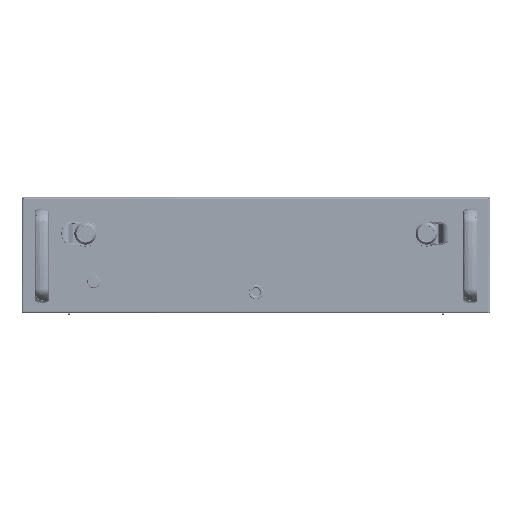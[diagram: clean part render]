
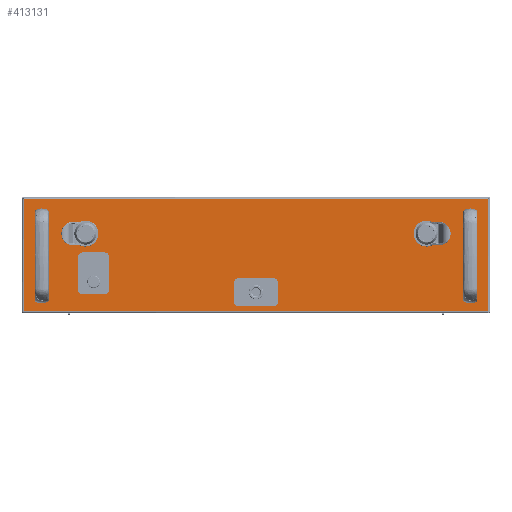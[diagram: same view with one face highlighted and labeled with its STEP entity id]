
A CAD part, front view. The second image highlights one B-rep face of the part: STEP entity #413131.
In plain terms, the highlighted planar face has unit normal (0, -1, 0) as drawn and (0, 0, 1) by its records, which use the part's own axes.
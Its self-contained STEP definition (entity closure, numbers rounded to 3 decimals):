
#410911=CARTESIAN_POINT(' ',(591.7,144.7,0.));
#410916=DIRECTION(' ',(-1.,0.,0.));
#410921=VECTOR(' ',#410916,1.);
#410926=LINE('',#410911,#410921);
#410931=CARTESIAN_POINT(' ',(591.7,144.7,0.));
#410932=VERTEX_POINT(' ',#410931);
#410936=CARTESIAN_POINT(' ',(2.3,144.7,0.));
#410937=VERTEX_POINT(' ',#410936);
#410941=EDGE_CURVE(' ',#410932,#410937,#410926,.T.);
#412411=DIRECTION(' ',(-0.,-0.,1.));
#412416=CARTESIAN_POINT(' ',(591.7,2.3,0.));
#412421=DIRECTION(' ',(0.,1.,0.));
#412426=AXIS2_PLACEMENT_3D(' ',#412416,#412411,#412421);
#412431=PLANE('NONE',#412426);
#412436=CARTESIAN_POINT(' ',(2.3,2.3,0.));
#412441=DIRECTION(' ',(1.,0.,0.));
#412446=VECTOR(' ',#412441,1.);
#412451=LINE('',#412436,#412446);
#412456=CARTESIAN_POINT(' ',(2.3,2.3,0.));
#412457=VERTEX_POINT(' ',#412456);
#412461=CARTESIAN_POINT(' ',(591.7,2.3,0.));
#412462=VERTEX_POINT(' ',#412461);
#412466=EDGE_CURVE(' ',#412457,#412462,#412451,.T.);
#412471=ORIENTED_EDGE(' ',*,*,#412466,.T.);
#412476=CARTESIAN_POINT(' ',(591.7,144.7,0.));
#412481=DIRECTION(' ',(0.,-1.,0.));
#412486=VECTOR(' ',#412481,1.);
#412491=LINE('',#412476,#412486);
#412496=EDGE_CURVE(' ',#410932,#412462,#412491,.T.);
#412501=ORIENTED_EDGE(' ',*,*,#412496,.F.);
#412506=ORIENTED_EDGE(' ',*,*,#410941,.T.);
#412511=CARTESIAN_POINT(' ',(2.3,144.7,0.));
#412516=DIRECTION(' ',(0.,-1.,0.));
#412521=VECTOR(' ',#412516,1.);
#412526=LINE('',#412511,#412521);
#412531=EDGE_CURVE(' ',#410937,#412457,#412526,.T.);
#412536=ORIENTED_EDGE(' ',*,*,#412531,.T.);
#412541=EDGE_LOOP(' ',(#412471,#412501,#412506,#412536));
#412546=FACE_OUTER_BOUND(' ',#412541,.T.);
#412551=CARTESIAN_POINT(' ',(110.85,30.,0.));
#412556=DIRECTION(' ',(0.,1.,0.));
#412561=VECTOR(' ',#412556,1.);
#412566=LINE('',#412551,#412561);
#412571=CARTESIAN_POINT(' ',(110.85,30.,0.));
#412572=VERTEX_POINT(' ',#412571);
#412576=CARTESIAN_POINT(' ',(110.85,71.,0.));
#412577=VERTEX_POINT(' ',#412576);
#412581=EDGE_CURVE(' ',#412572,#412577,#412566,.T.);
#412586=ORIENTED_EDGE(' ',*,*,#412581,.F.);
#412591=CARTESIAN_POINT(' ',(104.85,30.,0.));
#412596=DIRECTION(' ',(0.,-0.,1.));
#412601=DIRECTION(' ',(0.,-1.,0.));
#412606=AXIS2_PLACEMENT_3D(' ',#412591,#412596,#412601);
#412611=CIRCLE('',#412606,6.);
#412616=CARTESIAN_POINT(' ',(104.85,24.,0.));
#412617=VERTEX_POINT(' ',#412616);
#412621=EDGE_CURVE(' ',#412617,#412572,#412611,.T.);
#412626=ORIENTED_EDGE(' ',*,*,#412621,.F.);
#412631=CARTESIAN_POINT(' ',(76.85,24.,0.));
#412636=DIRECTION(' ',(1.,0.,0.));
#412641=VECTOR(' ',#412636,1.);
#412646=LINE('',#412631,#412641);
#412651=CARTESIAN_POINT(' ',(76.85,24.,0.));
#412652=VERTEX_POINT(' ',#412651);
#412656=EDGE_CURVE(' ',#412652,#412617,#412646,.T.);
#412661=ORIENTED_EDGE(' ',*,*,#412656,.F.);
#412666=CARTESIAN_POINT(' ',(76.85,30.,0.));
#412671=DIRECTION(' ',(0.,0.,1.));
#412676=DIRECTION(' ',(-1.,0.,0.));
#412681=AXIS2_PLACEMENT_3D(' ',#412666,#412671,#412676);
#412686=CIRCLE('',#412681,6.);
#412691=CARTESIAN_POINT(' ',(70.85,30.,0.));
#412692=VERTEX_POINT(' ',#412691);
#412696=EDGE_CURVE(' ',#412692,#412652,#412686,.T.);
#412701=ORIENTED_EDGE(' ',*,*,#412696,.F.);
#412706=CARTESIAN_POINT(' ',(70.85,71.,0.));
#412711=DIRECTION(' ',(0.,-1.,0.));
#412716=VECTOR(' ',#412711,1.);
#412721=LINE('',#412706,#412716);
#412726=CARTESIAN_POINT(' ',(70.85,71.,0.));
#412727=VERTEX_POINT(' ',#412726);
#412731=EDGE_CURVE(' ',#412727,#412692,#412721,.T.);
#412736=ORIENTED_EDGE(' ',*,*,#412731,.F.);
#412741=CARTESIAN_POINT(' ',(76.85,71.,0.));
#412746=DIRECTION(' ',(0.,0.,1.));
#412751=DIRECTION(' ',(0.,1.,0.));
#412756=AXIS2_PLACEMENT_3D(' ',#412741,#412746,#412751);
#412761=CIRCLE('',#412756,6.);
#412766=CARTESIAN_POINT(' ',(76.85,77.,0.));
#412767=VERTEX_POINT(' ',#412766);
#412771=EDGE_CURVE(' ',#412767,#412727,#412761,.T.);
#412776=ORIENTED_EDGE(' ',*,*,#412771,.F.);
#412781=CARTESIAN_POINT(' ',(104.85,77.,0.));
#412786=DIRECTION(' ',(-1.,0.,0.));
#412791=VECTOR(' ',#412786,1.);
#412796=LINE('',#412781,#412791);
#412801=CARTESIAN_POINT(' ',(104.85,77.,0.));
#412802=VERTEX_POINT(' ',#412801);
#412806=EDGE_CURVE(' ',#412802,#412767,#412796,.T.);
#412811=ORIENTED_EDGE(' ',*,*,#412806,.F.);
#412816=CARTESIAN_POINT(' ',(104.85,71.,0.));
#412821=DIRECTION(' ',(0.,0.,1.));
#412826=DIRECTION(' ',(1.,0.,0.));
#412831=AXIS2_PLACEMENT_3D(' ',#412816,#412821,#412826);
#412836=CIRCLE('',#412831,6.);
#412841=EDGE_CURVE(' ',#412577,#412802,#412836,.T.);
#412846=ORIENTED_EDGE(' ',*,*,#412841,.F.);
#412851=EDGE_LOOP(' ',(#412586,#412626,#412661,#412701,#412736,#412776,#412811,#412846));
#412856=FACE_BOUND(' ',#412851,.T.);
#412861=CARTESIAN_POINT(' ',(297.,26.5,0.));
#412866=DIRECTION(' ',(0.,-0.,-1.));
#412871=DIRECTION(' ',(-1.,0.,0.));
#412876=AXIS2_PLACEMENT_3D(' ',#412861,#412866,#412871);
#412881=CIRCLE('',#412876,10.);
#412886=CARTESIAN_POINT(' ',(287.,26.5,0.));
#412887=VERTEX_POINT(' ',#412886);
#412891=CARTESIAN_POINT(' ',(307.,26.5,0.));
#412892=VERTEX_POINT(' ',#412891);
#412896=EDGE_CURVE(' ',#412887,#412892,#412881,.T.);
#412901=ORIENTED_EDGE(' ',*,*,#412896,.T.);
#412906=CARTESIAN_POINT(' ',(297.,26.5,0.));
#412911=DIRECTION(' ',(0.,0.,-1.));
#412916=DIRECTION(' ',(1.,0.,0.));
#412921=AXIS2_PLACEMENT_3D(' ',#412906,#412911,#412916);
#412926=CIRCLE('',#412921,10.);
#412931=EDGE_CURVE(' ',#412892,#412887,#412926,.T.);
#412936=ORIENTED_EDGE(' ',*,*,#412931,.T.);
#412941=EDGE_LOOP(' ',(#412901,#412936));
#412946=FACE_BOUND(' ',#412941,.T.);
#412951=CARTESIAN_POINT(' ',(25.,123.5,0.));
#412956=DIRECTION(' ',(0.,0.,1.));
#412961=DIRECTION(' ',(-1.,0.,0.));
#412966=AXIS2_PLACEMENT_3D(' ',#412951,#412956,#412961);
#412971=CIRCLE('',#412966,2.75);
#412976=CARTESIAN_POINT(' ',(22.25,123.5,0.));
#412977=VERTEX_POINT(' ',#412976);
#412981=CARTESIAN_POINT(' ',(27.75,123.5,0.));
#412982=VERTEX_POINT(' ',#412981);
#412986=EDGE_CURVE(' ',#412977,#412982,#412971,.T.);
#412991=ORIENTED_EDGE(' ',*,*,#412986,.F.);
#412996=CARTESIAN_POINT(' ',(25.,123.5,0.));
#413001=DIRECTION(' ',(0.,0.,1.));
#413006=DIRECTION(' ',(1.,0.,0.));
#413011=AXIS2_PLACEMENT_3D(' ',#412996,#413001,#413006);
#413016=CIRCLE('',#413011,2.75);
#413021=EDGE_CURVE(' ',#412982,#412977,#413016,.T.);
#413026=ORIENTED_EDGE(' ',*,*,#413021,.F.);
#413031=EDGE_LOOP(' ',(#412991,#413026));
#413036=FACE_BOUND(' ',#413031,.T.);
#413041=CARTESIAN_POINT(' ',(25.,23.5,0.));
#413046=DIRECTION(' ',(0.,0.,1.));
#413051=DIRECTION(' ',(-1.,0.,0.));
#413056=AXIS2_PLACEMENT_3D(' ',#413041,#413046,#413051);
#413061=CIRCLE('',#413056,2.75);
#413066=CARTESIAN_POINT(' ',(22.25,23.5,0.));
#413067=VERTEX_POINT(' ',#413066);
#413071=CARTESIAN_POINT(' ',(27.75,23.5,0.));
#413072=VERTEX_POINT(' ',#413071);
#413076=EDGE_CURVE(' ',#413067,#413072,#413061,.T.);
#413081=ORIENTED_EDGE(' ',*,*,#413076,.F.);
#413086=CARTESIAN_POINT(' ',(25.,23.5,0.));
#413091=DIRECTION(' ',(0.,0.,1.));
#413096=DIRECTION(' ',(1.,0.,0.));
#413101=AXIS2_PLACEMENT_3D(' ',#413086,#413091,#413096);
#413106=CIRCLE('',#413101,2.75);
#413111=EDGE_CURVE(' ',#413072,#413067,#413106,.T.);
#413116=ORIENTED_EDGE(' ',*,*,#413111,.F.);
#413121=EDGE_LOOP(' ',(#413081,#413116));
#413126=FACE_BOUND(' ',#413121,.T.);
#413131=ADVANCED_FACE('NONE',(#412546,#412856,#412946,#413036,#413126),#412431,.T.);
